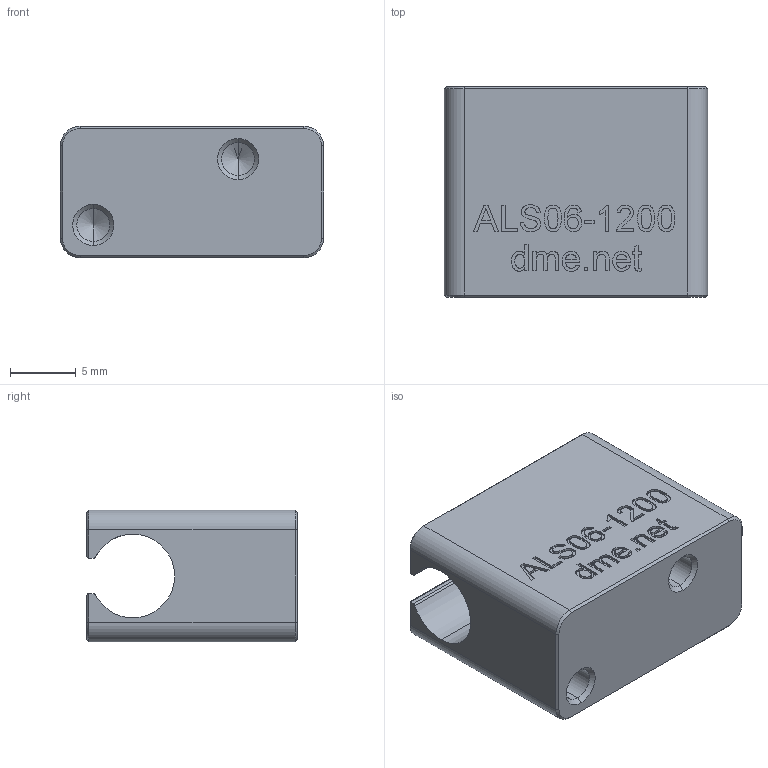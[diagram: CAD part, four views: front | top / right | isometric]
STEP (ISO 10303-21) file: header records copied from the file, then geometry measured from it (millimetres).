
FILE_DESCRIPTION (( 'STEP AP203' ), '1' );
FILE_NAME ('ALS06-1200.STEP', '2021-01-08T18:29:41', ( '' ), ( '' ), 'SwSTEP 2.0', 'SolidWorks 2020', '' );
FILE_SCHEMA (( 'CONFIG_CONTROL_DESIGN' ));
Length unit declared in the file: millimetre
Products named in the file (1): ALS06-1200
Bounding box: 20 x 16 x 10 mm (x, y, z)
Volume: 2455.9 mm3; surface area: 1647.3 mm2
Topology: 1 solids, 1 shells, 272 faces, 711 edges, 464 vertices
Faces by surface type: plane 124, bspline 117, cone 16, cylinder 15
Entity records: 14623 total; most frequent: CARTESIAN_POINT 8674, ORIENTED_EDGE 1414, DIRECTION 816, EDGE_CURVE 707, VERTEX_POINT 464, LINE 424, VECTOR 424, EDGE_LOOP 299
